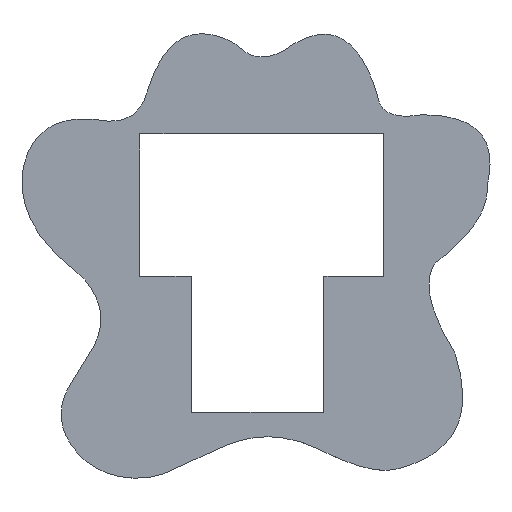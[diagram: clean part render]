
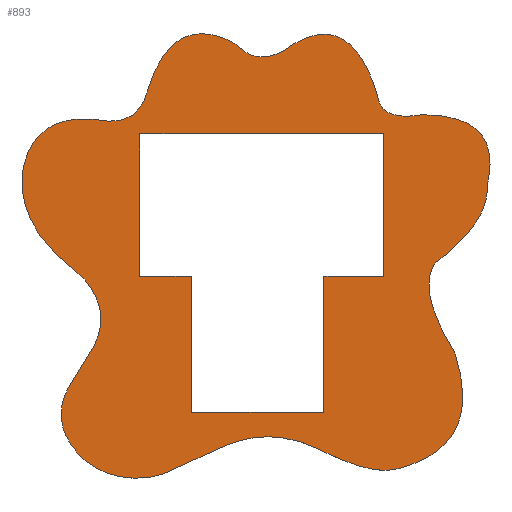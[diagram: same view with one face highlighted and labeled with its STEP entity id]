
A CAD part, top view. The second image highlights one B-rep face of the part: STEP entity #893.
In plain terms, the highlighted planar face has unit normal (0, 0, 1).
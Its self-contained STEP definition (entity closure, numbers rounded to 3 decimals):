
#34=CARTESIAN_POINT('',(43.,-7.,-1.));
#35=VERTEX_POINT('',#34);
#36=CARTESIAN_POINT('',(31.,-4.,-1.));
#37=VERTEX_POINT('',#36);
#38=CARTESIAN_POINT('',(43.,-7.,-1.));
#39=CARTESIAN_POINT('',(38.814,-8.026,-1.));
#40=CARTESIAN_POINT('',(31.,-4.,-1.));
#41=B_SPLINE_CURVE_WITH_KNOTS('',2,(#38,#39,#40),.UNSPECIFIED.,.F.,.F.,(3,3),(0.,1.),.UNSPECIFIED.);
#42=EDGE_CURVE('',#35,#37,#41,.T.);
#84=CARTESIAN_POINT('',(-5.416,22.316,-1.));
#85=VERTEX_POINT('',#84);
#86=CARTESIAN_POINT('',(31.,-4.,-1.));
#87=CARTESIAN_POINT('',(19.818,1.36,-1.));
#88=CARTESIAN_POINT('',(9.371,-10.077,-1.));
#89=CARTESIAN_POINT('',(-5.811,-7.872,-1.));
#90=CARTESIAN_POINT('',(-12.887,5.411,-1.));
#91=CARTESIAN_POINT('',(1.021,14.355,-1.));
#92=CARTESIAN_POINT('',(-5.416,22.316,-1.));
#93=B_SPLINE_CURVE_WITH_KNOTS('',3,(#86,#87,#88,#89,#90,#91,#92),.UNSPECIFIED.,.F.,.F.,(4,1,1,1,4),(0.,0.31,0.516,0.715,0.992),.UNSPECIFIED.);
#94=EDGE_CURVE('',#37,#85,#93,.T.);
#135=CARTESIAN_POINT('',(-6.532,23.395,-1.));
#136=VERTEX_POINT('',#135);
#143=CARTESIAN_POINT('',(-15.,40.,-1.));
#144=VERTEX_POINT('',#143);
#145=CARTESIAN_POINT('',(-6.532,23.395,-1.));
#146=CARTESIAN_POINT('',(-16.62,31.027,-1.));
#147=CARTESIAN_POINT('',(-15.,40.,-1.));
#148=B_SPLINE_CURVE_WITH_KNOTS('',2,(#145,#146,#147),.UNSPECIFIED.,.F.,.F.,(3,3),(0.025,1.),.UNSPECIFIED.);
#149=EDGE_CURVE('',#136,#144,#148,.T.);
#167=CARTESIAN_POINT('',(-2.,47.,-1.));
#168=VERTEX_POINT('',#167);
#169=CARTESIAN_POINT('',(-15.,40.,-1.));
#170=CARTESIAN_POINT('',(-12.774,48.916,-1.));
#171=CARTESIAN_POINT('',(-2.,47.,-1.));
#172=B_SPLINE_CURVE_WITH_KNOTS('',2,(#169,#170,#171),.UNSPECIFIED.,.F.,.F.,(3,3),(0.,1.),.UNSPECIFIED.);
#173=EDGE_CURVE('',#144,#168,#172,.T.);
#200=CARTESIAN_POINT('',(4.197,51.53,-1.));
#201=VERTEX_POINT('',#200);
#202=CARTESIAN_POINT('',(-2.,47.,-1.));
#203=CARTESIAN_POINT('',(2.914,46.745,-1.));
#204=CARTESIAN_POINT('',(4.197,51.53,-1.));
#205=B_SPLINE_CURVE_WITH_KNOTS('',2,(#202,#203,#204),.UNSPECIFIED.,.F.,.F.,(3,3),(0.,1.),.UNSPECIFIED.);
#206=EDGE_CURVE('',#168,#201,#205,.T.);
#233=CARTESIAN_POINT('',(16.949,59.519,-1.));
#234=VERTEX_POINT('',#233);
#235=CARTESIAN_POINT('',(4.197,51.53,-1.));
#236=CARTESIAN_POINT('',(7.85,63.63,-1.));
#237=CARTESIAN_POINT('',(16.949,59.519,-1.));
#238=B_SPLINE_CURVE_WITH_KNOTS('',2,(#235,#236,#237),.UNSPECIFIED.,.F.,.F.,(3,3),(0.,0.946),.UNSPECIFIED.);
#239=EDGE_CURVE('',#201,#234,#238,.T.);
#276=CARTESIAN_POINT('',(18.504,58.473,-1.));
#277=VERTEX_POINT('',#276);
#284=CARTESIAN_POINT('',(27.,59.,-1.));
#285=VERTEX_POINT('',#284);
#286=CARTESIAN_POINT('',(18.504,58.473,-1.));
#287=CARTESIAN_POINT('',(21.938,55.206,-1.));
#288=CARTESIAN_POINT('',(27.,59.,-1.));
#289=B_SPLINE_CURVE_WITH_KNOTS('',2,(#286,#287,#288),.UNSPECIFIED.,.F.,.F.,(3,3),(0.069,1.),.UNSPECIFIED.);
#290=EDGE_CURVE('',#277,#285,#289,.T.);
#308=CARTESIAN_POINT('',(40.,51.,-1.));
#309=VERTEX_POINT('',#308);
#310=CARTESIAN_POINT('',(27.,59.,-1.));
#311=CARTESIAN_POINT('',(35.903,64.257,-1.));
#312=CARTESIAN_POINT('',(40.,51.,-1.));
#313=B_SPLINE_CURVE_WITH_KNOTS('',2,(#310,#311,#312),.UNSPECIFIED.,.F.,.F.,(3,3),(0.,1.),.UNSPECIFIED.);
#314=EDGE_CURVE('',#285,#309,#313,.T.);
#341=CARTESIAN_POINT('',(47.,48.,-1.));
#342=VERTEX_POINT('',#341);
#343=CARTESIAN_POINT('',(40.,51.,-1.));
#344=CARTESIAN_POINT('',(40.369,46.922,-1.));
#345=CARTESIAN_POINT('',(47.,48.,-1.));
#346=B_SPLINE_CURVE_WITH_KNOTS('',2,(#343,#344,#345),.UNSPECIFIED.,.F.,.F.,(3,3),(0.,1.),.UNSPECIFIED.);
#347=EDGE_CURVE('',#309,#342,#346,.T.);
#374=CARTESIAN_POINT('',(57.,37.,-1.));
#375=VERTEX_POINT('',#374);
#376=CARTESIAN_POINT('',(47.,48.,-1.));
#377=CARTESIAN_POINT('',(59.606,47.956,-1.));
#378=CARTESIAN_POINT('',(57.,37.,-1.));
#379=B_SPLINE_CURVE_WITH_KNOTS('',2,(#376,#377,#378),.UNSPECIFIED.,.F.,.F.,(3,3),(0.,1.),.UNSPECIFIED.);
#380=EDGE_CURVE('',#342,#375,#379,.T.);
#407=CARTESIAN_POINT('',(49.,25.,-1.));
#408=VERTEX_POINT('',#407);
#409=CARTESIAN_POINT('',(57.,37.,-1.));
#410=CARTESIAN_POINT('',(57.465,31.491,-1.));
#411=CARTESIAN_POINT('',(49.,25.,-1.));
#412=B_SPLINE_CURVE_WITH_KNOTS('',2,(#409,#410,#411),.UNSPECIFIED.,.F.,.F.,(3,3),(0.,1.),.UNSPECIFIED.);
#413=EDGE_CURVE('',#375,#408,#412,.T.);
#440=CARTESIAN_POINT('',(52.,11.,-1.));
#441=VERTEX_POINT('',#440);
#442=CARTESIAN_POINT('',(49.,25.,-1.));
#443=CARTESIAN_POINT('',(45.954,20.861,-1.));
#444=CARTESIAN_POINT('',(52.,11.,-1.));
#445=B_SPLINE_CURVE_WITH_KNOTS('',2,(#442,#443,#444),.UNSPECIFIED.,.F.,.F.,(3,3),(0.,1.),.UNSPECIFIED.);
#446=EDGE_CURVE('',#408,#441,#445,.T.);
#471=CARTESIAN_POINT('',(40.912,45.008,-1.));
#472=VERTEX_POINT('',#471);
#473=CARTESIAN_POINT('',(3.099,45.008,-1.));
#474=VERTEX_POINT('',#473);
#475=CARTESIAN_POINT('',(40.912,45.008,-1.));
#476=DIRECTION('',(-1.,0.,0.));
#477=VECTOR('',#476,37.813);
#478=LINE('',#475,#477);
#479=EDGE_CURVE('',#472,#474,#478,.T.);
#511=CARTESIAN_POINT('',(3.099,22.886,-1.));
#512=VERTEX_POINT('',#511);
#513=CARTESIAN_POINT('',(3.099,45.008,-1.));
#514=DIRECTION('',(0.,-1.,0.));
#515=VECTOR('',#514,22.121);
#516=LINE('',#513,#515);
#517=EDGE_CURVE('',#474,#512,#516,.T.);
#542=CARTESIAN_POINT('',(11.029,22.886,-1.));
#543=VERTEX_POINT('',#542);
#544=CARTESIAN_POINT('',(3.099,22.886,-1.));
#545=DIRECTION('',(1.,0.,-0.));
#546=VECTOR('',#545,7.93);
#547=LINE('',#544,#546);
#548=EDGE_CURVE('',#512,#543,#547,.T.);
#573=CARTESIAN_POINT('',(11.029,1.833,-1.));
#574=VERTEX_POINT('',#573);
#575=CARTESIAN_POINT('',(11.029,22.886,-1.));
#576=DIRECTION('',(0.,-1.,0.));
#577=VECTOR('',#576,21.054);
#578=LINE('',#575,#577);
#579=EDGE_CURVE('',#543,#574,#578,.T.);
#604=CARTESIAN_POINT('',(16.105,1.833,-1.));
#605=VERTEX_POINT('',#604);
#606=CARTESIAN_POINT('',(11.029,1.833,-1.));
#607=DIRECTION('',(1.,0.,-0.));
#608=VECTOR('',#607,5.076);
#609=LINE('',#606,#608);
#610=EDGE_CURVE('',#574,#605,#609,.T.);
#635=CARTESIAN_POINT('',(26.93,1.702,-1.));
#636=VERTEX_POINT('',#635);
#637=CARTESIAN_POINT('',(26.93,1.702,-1.));
#638=DIRECTION('',(-1.,0.012,0.));
#639=VECTOR('',#638,10.826);
#640=LINE('',#637,#639);
#641=EDGE_CURVE('',#636,#605,#640,.T.);
#666=CARTESIAN_POINT('',(31.669,1.702,-1.));
#667=VERTEX_POINT('',#666);
#668=CARTESIAN_POINT('',(26.93,1.702,-1.));
#669=DIRECTION('',(1.,0.,-0.));
#670=VECTOR('',#669,4.739);
#671=LINE('',#668,#670);
#672=EDGE_CURVE('',#636,#667,#671,.T.);
#697=CARTESIAN_POINT('',(31.669,22.919,-1.));
#698=VERTEX_POINT('',#697);
#699=CARTESIAN_POINT('',(31.669,1.702,-1.));
#700=DIRECTION('',(0.,1.,0.));
#701=VECTOR('',#700,21.217);
#702=LINE('',#699,#701);
#703=EDGE_CURVE('',#667,#698,#702,.T.);
#728=CARTESIAN_POINT('',(40.912,22.919,-1.));
#729=VERTEX_POINT('',#728);
#730=CARTESIAN_POINT('',(31.669,22.919,-1.));
#731=DIRECTION('',(1.,0.,-0.));
#732=VECTOR('',#731,9.242);
#733=LINE('',#730,#732);
#734=EDGE_CURVE('',#698,#729,#733,.T.);
#759=CARTESIAN_POINT('',(40.912,22.919,-1.));
#760=DIRECTION('',(0.,1.,0.));
#761=VECTOR('',#760,22.089);
#762=LINE('',#759,#761);
#763=EDGE_CURVE('',#729,#472,#762,.T.);
#783=CARTESIAN_POINT('',(52.,11.,-1.));
#784=CARTESIAN_POINT('',(56.74,-3.537,-1.));
#785=CARTESIAN_POINT('',(43.,-7.,-1.));
#786=B_SPLINE_CURVE_WITH_KNOTS('',2,(#783,#784,#785),.UNSPECIFIED.,.F.,.F.,(3,3),(0.,1.),.UNSPECIFIED.);
#787=EDGE_CURVE('',#441,#35,#786,.T.);
#847=CARTESIAN_POINT('',(0.,0.,-1.));
#848=DIRECTION('',(0.,0.,-1.));
#849=DIRECTION('',(-1.,0.,0.));
#850=AXIS2_PLACEMENT_3D('',#847,#848,#849);
#851=PLANE('',#850);
#852=ORIENTED_EDGE('',*,*,#479,.F.);
#853=ORIENTED_EDGE('',*,*,#763,.F.);
#854=ORIENTED_EDGE('',*,*,#734,.F.);
#855=ORIENTED_EDGE('',*,*,#703,.F.);
#856=ORIENTED_EDGE('',*,*,#672,.F.);
#857=ORIENTED_EDGE('',*,*,#641,.T.);
#858=ORIENTED_EDGE('',*,*,#610,.F.);
#859=ORIENTED_EDGE('',*,*,#579,.F.);
#860=ORIENTED_EDGE('',*,*,#548,.F.);
#861=ORIENTED_EDGE('',*,*,#517,.F.);
#862=EDGE_LOOP('',(#852,#853,#854,#855,#856,#857,#858,#859,#860,#861));
#863=FACE_BOUND('',#862,.T.);
#864=ORIENTED_EDGE('',*,*,#290,.F.);
#865=CARTESIAN_POINT('',(14.644,54.416,-1.));
#866=DIRECTION('',(-0.,-0.,1.));
#867=DIRECTION('',(-1.,0.,0.));
#868=AXIS2_PLACEMENT_3D('',#865,#866,#867);
#869=CIRCLE('',#868,5.6);
#870=EDGE_CURVE('',#277,#234,#869,.T.);
#871=ORIENTED_EDGE('',*,*,#870,.T.);
#872=ORIENTED_EDGE('',*,*,#239,.F.);
#873=ORIENTED_EDGE('',*,*,#206,.F.);
#874=ORIENTED_EDGE('',*,*,#173,.F.);
#875=ORIENTED_EDGE('',*,*,#149,.F.);
#876=CARTESIAN_POINT('',(-10.393,18.291,-1.));
#877=DIRECTION('',(0.,0.,-1.));
#878=DIRECTION('',(-1.,0.,0.));
#879=AXIS2_PLACEMENT_3D('',#876,#877,#878);
#880=CIRCLE('',#879,6.4);
#881=EDGE_CURVE('',#136,#85,#880,.T.);
#882=ORIENTED_EDGE('',*,*,#881,.T.);
#883=ORIENTED_EDGE('',*,*,#94,.F.);
#884=ORIENTED_EDGE('',*,*,#42,.F.);
#885=ORIENTED_EDGE('',*,*,#787,.F.);
#886=ORIENTED_EDGE('',*,*,#446,.F.);
#887=ORIENTED_EDGE('',*,*,#413,.F.);
#888=ORIENTED_EDGE('',*,*,#380,.F.);
#889=ORIENTED_EDGE('',*,*,#347,.F.);
#890=ORIENTED_EDGE('',*,*,#314,.F.);
#891=EDGE_LOOP('',(#864,#871,#872,#873,#874,#875,#882,#883,#884,#885,#886,#887,#888,#889,#890));
#892=FACE_BOUND('',#891,.T.);
#893=ADVANCED_FACE('',(#863,#892),#851,.F.);
